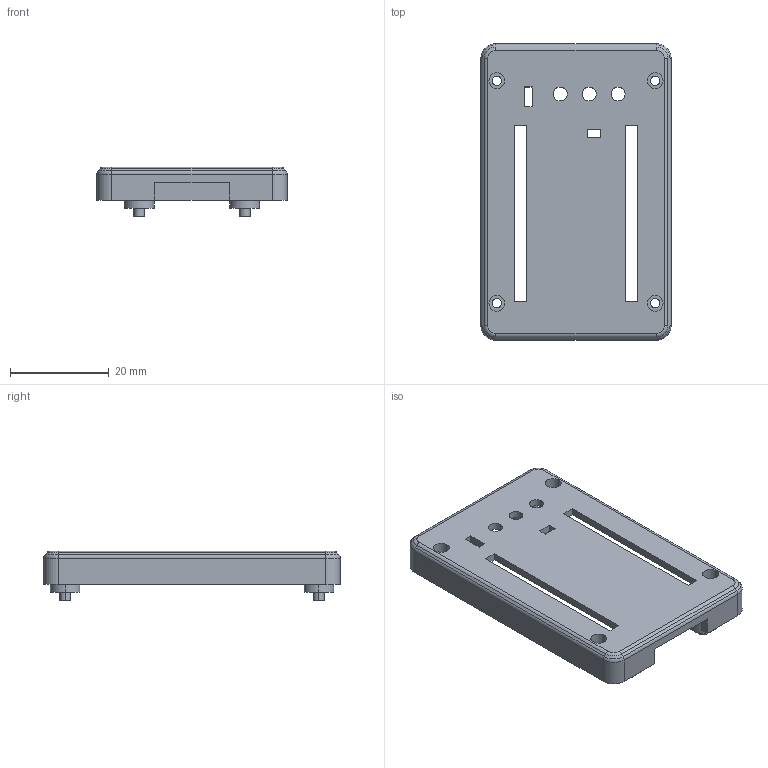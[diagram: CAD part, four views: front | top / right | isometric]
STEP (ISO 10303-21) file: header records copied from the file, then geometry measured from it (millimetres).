
FILE_DESCRIPTION (( 'STEP AP214' ), '1' );
FILE_NAME ('Top_Enclosure.STEP', '2025-11-23T20:05:03', ( '' ), ( '' ), 'SwSTEP 2.0', 'SolidWorks 2025', '' );
FILE_SCHEMA (( 'AUTOMOTIVE_DESIGN' ));
Length unit declared in the file: millimetre
Products named in the file (1): Top_Enclosure
Bounding box: 38.5 x 60 x 10.1 mm (x, y, z)
Volume: 5488.9 mm3; surface area: 7307.9 mm2
Topology: 1 solids, 1 shells, 158 faces, 412 edges, 264 vertices
Faces by surface type: plane 74, cylinder 68, torus 8, cone 8
Entity records: 4927 total; most frequent: CARTESIAN_POINT 883, DIRECTION 874, ORIENTED_EDGE 824, EDGE_CURVE 412, AXIS2_PLACEMENT_3D 319, VERTEX_POINT 264, LINE 236, VECTOR 236
